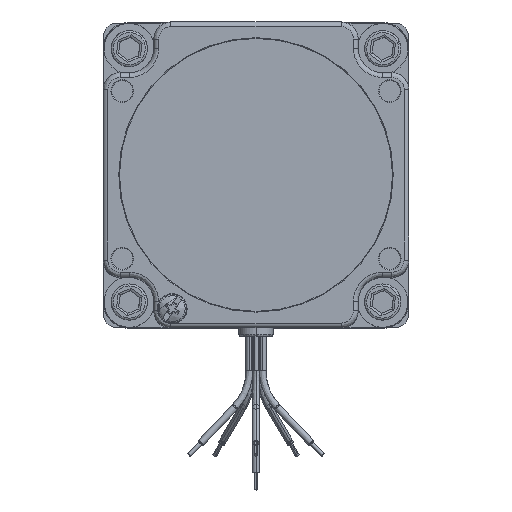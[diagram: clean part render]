
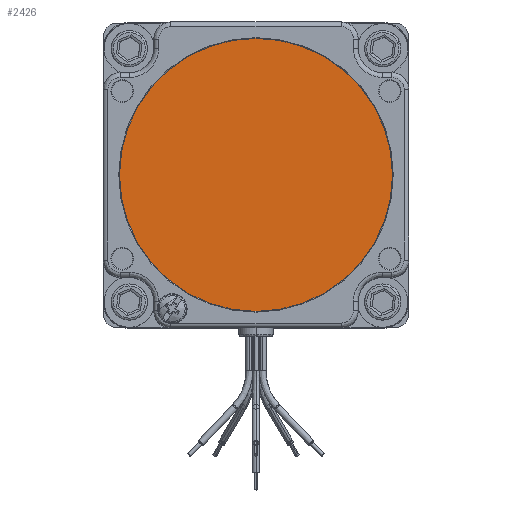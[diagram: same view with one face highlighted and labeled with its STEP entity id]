
A CAD part, top view. The second image highlights one B-rep face of the part: STEP entity #2426.
In plain terms, the highlighted planar face has unit normal (0, 0, 1).
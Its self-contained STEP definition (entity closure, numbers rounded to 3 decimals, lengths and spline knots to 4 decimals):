
#2426 = ADVANCED_FACE ( 'NONE', ( #31352 ), #18607, .T. ) ;
#18603 = CARTESIAN_POINT ( 'NONE',  ( 0., 0., 35.4736 ) ) ;
#18607 = PLANE ( 'NONE',  #29303 ) ;
#18613 = DIRECTION ( 'NONE',  ( 0., 0., 1. ) ) ;
#18615 = DIRECTION ( 'NONE',  ( 0., -1., 0. ) ) ;
#27633 = ORIENTED_EDGE ( 'NONE', *, *, #119273, .T. ) ;
#28198 = ORIENTED_EDGE ( 'NONE', *, *, #119027, .T. ) ;
#29303 = AXIS2_PLACEMENT_3D ( 'NONE', #18603, #18613, #18615 ) ;
#31352 = FACE_OUTER_BOUND ( 'NONE', #103301, .T. ) ;
#48206 = CARTESIAN_POINT ( 'NONE',  ( 0., 2.54, 35.4736 ) ) ;
#48220 = CARTESIAN_POINT ( 'NONE',  ( 0., -2.54, 35.4736 ) ) ;
#56416 = AXIS2_PLACEMENT_3D ( 'NONE', #64800, #64804, #64807 ) ;
#56536 = AXIS2_PLACEMENT_3D ( 'NONE', #66742, #66744, #66745 ) ;
#61390 = CIRCLE ( 'NONE', #56416, 2.54 ) ;
#62754 = CIRCLE ( 'NONE', #56536, 2.54 ) ;
#64800 = CARTESIAN_POINT ( 'NONE',  ( 0., 0., 35.4736 ) ) ;
#64804 = DIRECTION ( 'NONE',  ( 0., 0., 1. ) ) ;
#64807 = DIRECTION ( 'NONE',  ( 0., 1., 0. ) ) ;
#66742 = CARTESIAN_POINT ( 'NONE',  ( 0., 0., 35.4736 ) ) ;
#66744 = DIRECTION ( 'NONE',  ( 0., 0., 1. ) ) ;
#66745 = DIRECTION ( 'NONE',  ( 0., 1., 0. ) ) ;
#71933 = VERTEX_POINT ( 'NONE', #48206 ) ;
#72115 = VERTEX_POINT ( 'NONE', #48220 ) ;
#103301 = EDGE_LOOP ( 'NONE', ( #27633, #28198 ) ) ;
#119027 = EDGE_CURVE ( 'NONE', #72115, #71933, #61390, .T. ) ;
#119273 = EDGE_CURVE ( 'NONE', #71933, #72115, #62754, .T. ) ;
